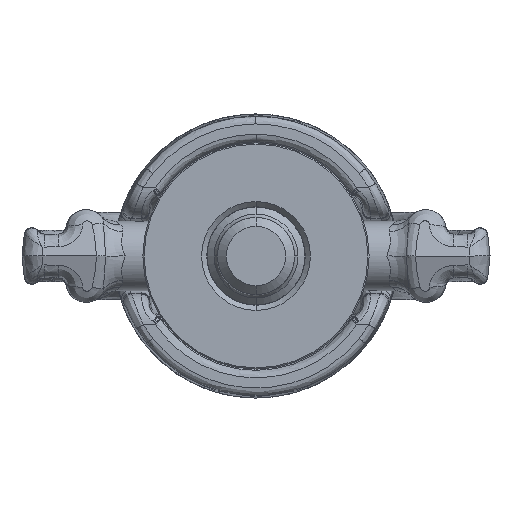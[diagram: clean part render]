
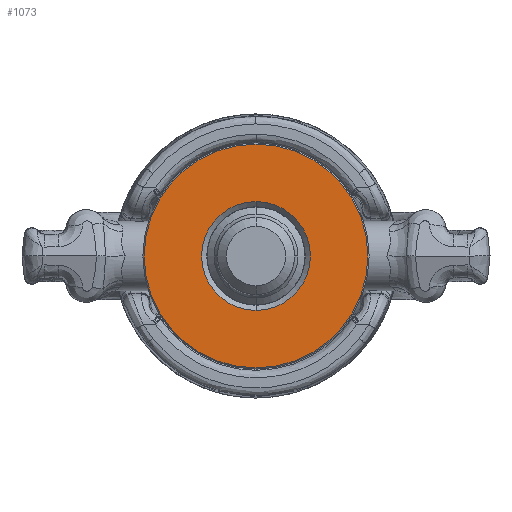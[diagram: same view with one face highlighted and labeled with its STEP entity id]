
A CAD part, front view. The second image highlights one B-rep face of the part: STEP entity #1073.
In plain terms, the highlighted planar face has unit normal (0, -1, 0).
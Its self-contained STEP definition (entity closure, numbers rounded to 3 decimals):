
#236 = ORIENTED_EDGE ( 'NONE', *, *, #1543, .F. ) ;
#248 = EDGE_LOOP ( 'NONE', ( #236, #2850 ) ) ;
#263 = EDGE_CURVE ( 'NONE', #35152, #35149, #25096, .T. ) ;
#1073 = ADVANCED_FACE ( 'NONE', ( #25226, #25224 ), #25222, .F. ) ;
#1543 = EDGE_CURVE ( 'NONE', #29620, #35168, #25340, .T. ) ;
#2686 = ORIENTED_EDGE ( 'NONE', *, *, #35146, .F. ) ;
#2711 = EDGE_LOOP ( 'NONE', ( #2686, #2746 ) ) ;
#2746 = ORIENTED_EDGE ( 'NONE', *, *, #263, .F. ) ;
#2850 = ORIENTED_EDGE ( 'NONE', *, *, #35170, .F. ) ;
#25089 = DIRECTION ( 'NONE',  ( 0., 0., 1. ) ) ;
#25091 = DIRECTION ( 'NONE',  ( 0., 1., 0. ) ) ;
#25092 = CARTESIAN_POINT ( 'NONE',  ( 0., 0., 0. ) ) ;
#25094 = AXIS2_PLACEMENT_3D ( 'NONE', #25092, #25091, #25089 ) ;
#25096 = CIRCLE ( 'NONE', #25094, 43.5 ) ;
#25209 = DIRECTION ( 'NONE',  ( 0., 0., 1. ) ) ;
#25211 = DIRECTION ( 'NONE',  ( 0., 1., 0. ) ) ;
#25213 = AXIS2_PLACEMENT_3D ( 'NONE', #25221, #25211, #25209 ) ;
#25221 = CARTESIAN_POINT ( 'NONE',  ( 0., 0., 0. ) ) ;
#25222 = PLANE ( 'NONE',  #25213 ) ;
#25224 = FACE_OUTER_BOUND ( 'NONE', #2711, .T. ) ;
#25226 = FACE_BOUND ( 'NONE', #248, .T. ) ;
#25325 = DIRECTION ( 'NONE',  ( 0., 0., -1. ) ) ;
#25327 = DIRECTION ( 'NONE',  ( 0., -1., 0. ) ) ;
#25329 = CARTESIAN_POINT ( 'NONE',  ( 0., 0., 0. ) ) ;
#25331 = AXIS2_PLACEMENT_3D ( 'NONE', #25329, #25327, #25325 ) ;
#25340 = CIRCLE ( 'NONE', #25331, 21.15 ) ;
#29620 = VERTEX_POINT ( 'NONE', #39872 ) ;
#35146 = EDGE_CURVE ( 'NONE', #35149, #35152, #40058, .T. ) ;
#35149 = VERTEX_POINT ( 'NONE', #40052 ) ;
#35152 = VERTEX_POINT ( 'NONE', #40051 ) ;
#35168 = VERTEX_POINT ( 'NONE', #40083 ) ;
#35170 = EDGE_CURVE ( 'NONE', #35168, #29620, #40082, .T. ) ;
#39872 = CARTESIAN_POINT ( 'NONE',  ( 0., 0., -21.15 ) ) ;
#40051 = CARTESIAN_POINT ( 'NONE',  ( 0., 0., -43.5 ) ) ;
#40052 = CARTESIAN_POINT ( 'NONE',  ( 0., 0., 43.5 ) ) ;
#40054 = DIRECTION ( 'NONE',  ( 0., 0., 1. ) ) ;
#40055 = DIRECTION ( 'NONE',  ( 0., 1., 0. ) ) ;
#40056 = CARTESIAN_POINT ( 'NONE',  ( 0., 0., 0. ) ) ;
#40057 = AXIS2_PLACEMENT_3D ( 'NONE', #40056, #40055, #40054 ) ;
#40058 = CIRCLE ( 'NONE', #40057, 43.5 ) ;
#40078 = DIRECTION ( 'NONE',  ( 0., 0., -1. ) ) ;
#40079 = DIRECTION ( 'NONE',  ( 0., -1., 0. ) ) ;
#40080 = CARTESIAN_POINT ( 'NONE',  ( 0., 0., 0. ) ) ;
#40081 = AXIS2_PLACEMENT_3D ( 'NONE', #40080, #40079, #40078 ) ;
#40082 = CIRCLE ( 'NONE', #40081, 21.15 ) ;
#40083 = CARTESIAN_POINT ( 'NONE',  ( 0., 0., 21.15 ) ) ;
